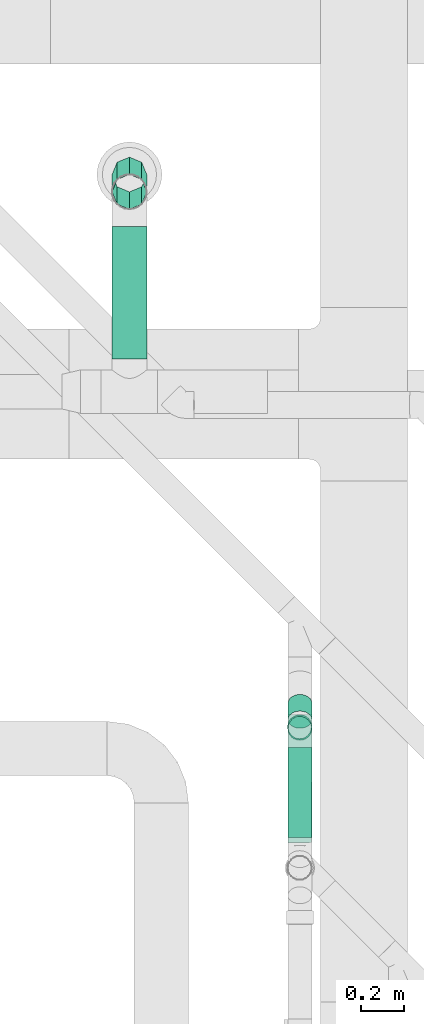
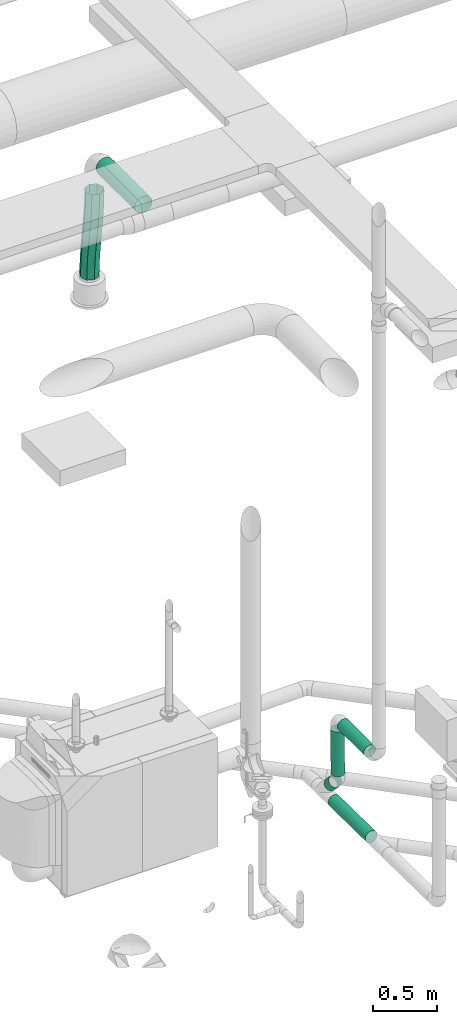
# One storey, part 318 of 374: 6 flow segments.
"""IFC2X3 building model written with IfcOpenShell, lengths in metres."""

import ifcopenshell
import ifcopenshell.guid

model = None  # the IFC model being written
_history = None  # IfcOwnerHistory: only IFC2X3 demands one
_inside = {}  # id of a spatial element -> (the spatial element, [elements in it])
_under = {}  # id of a project, library or spatial element -> (it, [spatial elements below it])
_declared = {}  # id of a project -> (the project, [libraries it declares])
_typed = {}  # id of a type object -> (the type object, [elements of that type])
_made_of = {}  # id of a material, layer set ... -> (it, [elements and type objects made of it])


def new_model(schema):
    """Start an empty IFC model of exactly this schema.

    Asked for "IFC4X3", IfcOpenShell would pick the latest addendum, in which some entities
    have other attributes; the version numbers below select the first issue.
    IFC2X3 requires an IfcOwnerHistory on every rooted entity: one is made here for all.
    """
    global model, _history
    if schema == "IFC4X3":
        model = ifcopenshell.file(schema_version=(4, 3, 0, 0))
    else:
        model = ifcopenshell.file(schema=schema)
    _inside.clear()
    _under.clear()
    _declared.clear()
    _typed.clear()
    _made_of.clear()
    _history = None
    if model.schema == "IFC2X3":
        org = make("IfcOrganization", Name="unknown")
        user = make(
            "IfcPersonAndOrganization",
            ThePerson=make("IfcPerson", FamilyName="unknown"),
            TheOrganization=org,
        )
        app = make(
            "IfcApplication",
            ApplicationDeveloper=org,
            Version="unknown",
            ApplicationFullName="unknown",
            ApplicationIdentifier="unknown",
        )
        _history = make(
            "IfcOwnerHistory",
            OwningUser=user,
            OwningApplication=app,
            ChangeAction="ADDED",
            CreationDate=0,
        )
    return model


def make(cls, **values):
    """One entity of the class cls with the attributes given. An attribute that is None is left unset."""
    return model.create_entity(
        cls, **{name: value for name, value in values.items() if value is not None}
    )


def rooted(cls, **values):
    """An entity with a GlobalId (a new one), such as an element, a storey or a relation."""
    return make(cls, GlobalId=ifcopenshell.guid.new(), OwnerHistory=_history, **values)


def si_unit(unit_type, name, prefix=None):
    """IfcSIUnit, for example si_unit("LENGTHUNIT", "METRE", prefix="MILLI")."""
    return make("IfcSIUnit", UnitType=unit_type, Prefix=prefix, Name=name)


def assignment(units):
    """IfcUnitAssignment: the units of a project."""
    return None if units is None else make("IfcUnitAssignment", Units=units)


def point(xyz):
    """IfcCartesianPoint."""
    return None if xyz is None else make("IfcCartesianPoint", Coordinates=xyz)


def direction(xyz):
    """IfcDirection."""
    return None if xyz is None else make("IfcDirection", DirectionRatios=xyz)


def frame(location, z_axis=None, x_axis=None):
    """IfcAxis2Placement3D, a coordinate frame: its origin and axes. An axis left out is left unset."""
    return make(
        "IfcAxis2Placement3D",
        Location=point(location),
        Axis=direction(z_axis),
        RefDirection=direction(x_axis),
    )


def origin():
    """The frame at (0, 0, 0) with its axes left unset."""
    return frame((0.0, 0.0, 0.0))


def place(relative_to, where):
    """IfcLocalPlacement: puts the frame where relative to a parent placement (None: the world)."""
    return make(
        "IfcLocalPlacement", PlacementRelTo=relative_to, RelativePlacement=where
    )


def context(
    kind, dimensions, precision=None, world=None, true_north=None, identifier=None
):
    """IfcGeometricRepresentationContext, for example the 3D "Model" context."""
    return make(
        "IfcGeometricRepresentationContext",
        ContextIdentifier=identifier,
        ContextType=kind,
        CoordinateSpaceDimension=dimensions,
        Precision=precision,
        WorldCoordinateSystem=world,
        TrueNorth=true_north,
    )


def subcontext(parent, identifier, kind, view, scale=None):
    """IfcGeometricRepresentationSubContext, for example "Body" below "Model"."""
    return make(
        "IfcGeometricRepresentationSubContext",
        ContextIdentifier=identifier,
        ContextType=kind,
        ParentContext=parent,
        TargetScale=scale,
        TargetView=view,
    )


def project(units=None, contexts=None):
    """IfcProject with its units and contexts."""
    return rooted(
        "IfcProject",
        Name="project",
        RepresentationContexts=contexts,
        UnitsInContext=assignment(units),
    )


def spatial(cls, under=None, at=None, **own):
    """A site, building, storey or space (cls), placed at a placement, below another one or the project."""
    s = rooted(cls, ObjectPlacement=at, **own)
    if under is not None:
        _under.setdefault(under.id(), (under, []))[1].append(s)
    return s


def faces_of(points, faces, orient=None, outer=None):
    """IfcFace entities. A face is a list of loops; a loop is a list of indices into points, from 0.

    orient and outer hold one flag for each loop. By default every Orientation is true, the
    first loop of a face is its IfcFaceOuterBound and the others are IfcFaceBound.
    """
    made = []
    for i, loops in enumerate(faces):
        bounds = []
        for j, loop in enumerate(loops):
            is_outer = j == 0 if outer is None else outer[i][j]
            bounds.append(
                make(
                    "IfcFaceOuterBound" if is_outer else "IfcFaceBound",
                    Bound=make("IfcPolyLoop", Polygon=[points[k] for k in loop]),
                    Orientation=True if orient is None else orient[i][j],
                )
            )
        made.append(make("IfcFace", Bounds=bounds))
    return made


def open_shell(faces, orient=None, outer=None):
    """The faces of one IfcOpenShell. surface_model builds it on its shared points."""
    return ("IfcOpenShell", faces, orient, outer)


def surface_model(cls, points, shells):
    """IfcFaceBasedSurfaceModel or IfcShellBasedSurfaceModel (cls): surfaces that need not close."""
    shared = [point(p) for p in points]
    made = [make(c, CfsFaces=faces_of(shared, fs, o, b)) for c, fs, o, b in shells]
    if cls == "IfcFaceBasedSurfaceModel":
        return make(cls, FbsmFaces=made)
    return make(cls, SbsmBoundary=made)


def shape(context_of_items, identifier, shape_type, items):
    """IfcShapeRepresentation: the items that make up one representation, for example the "Body"."""
    return make(
        "IfcShapeRepresentation",
        ContextOfItems=context_of_items,
        RepresentationIdentifier=identifier,
        RepresentationType=shape_type,
        Items=items,
    )


def source(mapping_origin, context_of_items, identifier, shape_type, items):
    """IfcRepresentationMap: a shape defined once, which mapped items show again and again."""
    return make(
        "IfcRepresentationMap",
        MappingOrigin=mapping_origin,
        MappedRepresentation=shape(context_of_items, identifier, shape_type, items),
    )


def transform(
    local_origin,
    x_axis=None,
    y_axis=None,
    z_axis=None,
    scale=None,
    scale2=None,
    scale3=None,
    uniform=True,
):
    """IfcCartesianTransformationOperator3D, or its non-uniform kind. x_axis, y_axis, z_axis: its Axis1, 2, 3."""
    if uniform:
        return make(
            "IfcCartesianTransformationOperator3D",
            Axis1=direction(x_axis),
            Axis2=direction(y_axis),
            LocalOrigin=point(local_origin),
            Scale=scale,
            Axis3=direction(z_axis),
        )
    return make(
        "IfcCartesianTransformationOperator3DnonUniform",
        Axis1=direction(x_axis),
        Axis2=direction(y_axis),
        LocalOrigin=point(local_origin),
        Scale=scale,
        Axis3=direction(z_axis),
        Scale2=scale2,
        Scale3=scale3,
    )


def mapped(mapping_source, mapping_target):
    """IfcMappedItem: shows the shape of a source again, moved by a transform."""
    return make(
        "IfcMappedItem", MappingSource=mapping_source, MappingTarget=mapping_target
    )


def made_of(thing, what):
    """Note that an element or type object is made of a material, layer set ...; save() writes the relation."""
    if what is not None:
        _made_of.setdefault(what.id(), (what, []))[1].append(thing)
    return thing


def element(
    cls,
    number,
    at=None,
    inside=None,
    cuts=None,
    type_object=None,
    material=None,
    context=None,
    identifier="Body",
    shape_type=None,
    held_by="IfcProductDefinitionShape",
    body=None,
    shapes=None,
    **own,
):
    """One element of the class cls, such as IfcWall. Its Tag is "e" and its number.

    at: its placement. inside: the storey or other place that contains it. cuts: it is an
    opening in that element (IfcRelVoidsElement). A single representation is given by context,
    identifier, shape_type and body (its items); several are given by shapes. held_by: the class
    of the entity that holds the representations. save() writes the other relations.
    """
    e = rooted(cls, Tag="e%d" % number, ObjectPlacement=at, **own)
    if body is not None:
        shapes = [shape(context, identifier, shape_type, body)]
    if shapes is not None:
        e.Representation = make(held_by, Representations=shapes)
    if inside is not None:
        _inside.setdefault(inside.id(), (inside, []))[1].append(e)
    if cuts is not None:
        rooted(
            "IfcRelVoidsElement", RelatingBuildingElement=cuts, RelatedOpeningElement=e
        )
    if type_object is not None:
        _typed.setdefault(type_object.id(), (type_object, []))[1].append(e)
    return made_of(e, material)


def aggregate(whole, parts):
    """IfcRelAggregates: a whole, such as a stair, and the parts it consists of."""
    return rooted("IfcRelAggregates", RelatingObject=whole, RelatedObjects=parts)


def save(model, path):
    """Write the relations noted so far, then the file.

    IfcRelAggregates (storeys below a building ...), IfcRelContainedInSpatialStructure (elements
    in a storey), IfcRelDefinesByType, IfcRelAssociatesMaterial and IfcRelDeclares: one each for
    every whole, place, type object, material and project.
    """
    for whole, parts in _under.values():
        aggregate(whole, parts)
    for where, things in _inside.values():
        rooted(
            "IfcRelContainedInSpatialStructure",
            RelatedElements=things,
            RelatingStructure=where,
        )
    for kind, things in _typed.values():
        rooted("IfcRelDefinesByType", RelatedObjects=things, RelatingType=kind)
    for what, things in _made_of.values():
        rooted("IfcRelAssociatesMaterial", RelatedObjects=things, RelatingMaterial=what)
    for by, libraries in _declared.values():
        rooted("IfcRelDeclares", RelatingContext=by, RelatedDefinitions=libraries)
    model.write(path)


model = new_model("IFC2X3")

# Units and contexts
model_context = context("Model", 3, precision=1e-05, world=origin(), true_north=direction((-0.4480736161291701, 0.8939966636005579)))
body_context = subcontext(model_context, "Body", "Model", "MODEL_VIEW")
ifc_project = project(units=[si_unit("LENGTHUNIT", "METRE"), si_unit("AREAUNIT", "SQUARE_METRE"), si_unit("VOLUMEUNIT", "CUBIC_METRE"), si_unit("PLANEANGLEUNIT", "RADIAN"), si_unit("THERMODYNAMICTEMPERATUREUNIT", "KELVIN"), si_unit("MASSUNIT", "GRAM", prefix="KILO"), si_unit("TIMEUNIT", "SECOND")], contexts=[model_context])

# Site, building, storey
site_placement = place(None, origin())
site = spatial("IfcSite", under=ifc_project, at=site_placement, Name="Site 1", CompositionType="ELEMENT")
building_placement = place(site_placement, origin())
building = spatial("IfcBuilding", under=site, at=building_placement, Name="Undefined", CompositionType="ELEMENT")
storey_placement = place(building_placement, origin())
storey = spatial("IfcBuildingStorey", under=building, at=storey_placement, Name="Rez de chauss\x8ee", CompositionType="ELEMENT", Elevation=0.0)

# Flow segments
shared_shape_1 = source(origin(), body_context, "Body", "SurfaceModel", [
    surface_model("IfcFaceBasedSurfaceModel", [(8.486868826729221e-05, 0.014357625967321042, -7.105427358e-15), (0.0, 0.0, 0.0), (0.5892833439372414, 1.4210854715e-14, -3.552713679e-15), (0.5893682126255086, 0.014357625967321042, 0.0), (-7.90850274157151e-05, -0.013868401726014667, -0.003716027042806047), (0.5892042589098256, -0.013868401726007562, -0.0037160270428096), (-0.00014699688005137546, -0.026302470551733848, -0.010894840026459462), (0.5891363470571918, -0.026302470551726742, -0.010894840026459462), (-0.0001991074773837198, -0.03645484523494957, -0.021047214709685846), (0.5890842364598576, -0.03645484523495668, -0.021047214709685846), (-0.00023186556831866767, -0.04363365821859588, -0.03348128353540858), (0.5890514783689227, -0.043633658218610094, -0.033481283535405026), (-0.00024303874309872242, -0.047349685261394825, -0.04734968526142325), (0.5890403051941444, -0.04734968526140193, -0.0473496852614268), (-0.00023186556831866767, -0.047349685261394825, -0.06170731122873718), (0.5890514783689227, -0.047349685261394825, -0.06170731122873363), (-0.0001991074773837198, -0.04363365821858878, -0.07557571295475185), (0.5890842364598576, -0.04363365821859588, -0.0755757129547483), (-0.0001469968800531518, -0.03645484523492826, -0.08800978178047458), (0.58913634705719, -0.03645484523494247, -0.08800978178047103), (-7.908502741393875e-05, -0.026302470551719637, -0.09816215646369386), (0.5892042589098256, -0.026302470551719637, -0.09816215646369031), (0.0, -0.013868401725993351, -0.10534096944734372), (0.5892833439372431, -0.013868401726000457, -0.10534096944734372), (8.486868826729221e-05, 2.842170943e-14, -0.10905699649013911), (0.5893682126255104, 2.1316282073e-14, -0.10905699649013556), (0.00016973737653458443, 0.014357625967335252, -0.10905699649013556), (0.5894530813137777, 0.014357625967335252, -0.10905699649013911), (0.00024882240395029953, 0.02822602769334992, -0.10534096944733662), (0.5895321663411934, 0.02822602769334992, -0.10534096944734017), (0.0003167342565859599, 0.040660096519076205, -0.0981621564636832), (0.5896000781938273, 0.040660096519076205, -0.09816215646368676), (0.00036884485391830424, 0.05081247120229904, -0.08800978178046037), (0.5896521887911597, 0.050812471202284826, -0.08800978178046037), (0.0004016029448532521, 0.05799128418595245, -0.07557571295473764), (0.5896849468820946, 0.05799128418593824, -0.07557571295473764), (0.00041277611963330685, 0.06170731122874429, -0.061707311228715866), (0.5896961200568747, 0.06170731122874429, -0.06170731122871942), (0.0004016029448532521, 0.06170731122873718, -0.047349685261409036), (0.5896849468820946, 0.06170731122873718, -0.047349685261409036), (0.00036884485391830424, 0.057991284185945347, -0.033481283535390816), (0.5896521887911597, 0.057991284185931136, -0.033481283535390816), (0.0003167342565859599, 0.050812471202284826, -0.021047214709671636), (0.5896000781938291, 0.05081247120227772, -0.021047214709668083), (0.0002488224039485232, 0.040660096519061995, -0.010894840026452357), (0.5895321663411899, 0.040660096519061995, -0.010894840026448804), (0.00016973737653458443, 0.02822602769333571, -0.0037160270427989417), (0.5894530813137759, 0.028226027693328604, -0.0037160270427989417)], [open_shell([[[0, 1, 2, 3]], [[1, 4, 5, 2]], [[4, 6, 7, 5]], [[6, 8, 9, 7]], [[8, 10, 11, 9]], [[10, 12, 13, 11]], [[12, 14, 15, 13]], [[14, 16, 17, 15]], [[16, 18, 19, 17]], [[18, 20, 21, 19]], [[20, 22, 23, 21]], [[22, 24, 25, 23]], [[24, 26, 27, 25]], [[26, 28, 29, 27]], [[28, 30, 31, 29]], [[30, 32, 33, 31]], [[32, 34, 35, 33]], [[34, 36, 37, 35]], [[36, 38, 39, 37]], [[38, 40, 41, 39]], [[40, 42, 43, 41]], [[42, 44, 45, 43]], [[44, 46, 47, 45]], [[46, 0, 3, 47]]])]),
])
flow_segment_1_placement = place(storey_placement, origin())
element("IfcFlowSegment", 1, at=flow_segment_1_placement, inside=storey, Name="PE-HD tuyau", ObjectType="PE-HD tuyau", context=body_context, shape_type="MappedRepresentation", body=[
    mapped(shared_shape_1, transform((57.038173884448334, 13.876891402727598, -1.2389539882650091), x_axis=(0.0027057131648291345, 0.9998643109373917, -0.016249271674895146), y_axis=(0.8451030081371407, -0.010973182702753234, -0.5344908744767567), z_axis=(-0.5345966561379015, -0.012286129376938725, -0.8450180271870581))),
])
shared_shape_2 = source(origin(), body_context, "Body", "SurfaceModel", [
    surface_model("IfcFaceBasedSurfaceModel", [(0.0, 0.014357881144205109, -3.552713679e-15), (0.0, 0.0, 0.0), (0.4260000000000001, 8.8817842e-16, 0.0), (0.4260000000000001, 0.014357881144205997, 0.0), (0.0, -0.01386864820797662, -0.0037160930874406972), (0.42600000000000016, -0.013868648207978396, -0.003716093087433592), (0.0, -0.026302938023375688, -0.010895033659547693), (0.42600000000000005, -0.02630293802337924, -0.010895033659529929), (0.0, -0.03645549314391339, -0.021047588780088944), (0.4260000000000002, -0.036455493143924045, -0.02104758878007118), (0.0, -0.04363443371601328, -0.033481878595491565), (0.42600000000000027, -0.04363443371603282, -0.03348187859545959), (0.0, -0.04735052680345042, -0.04735052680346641), (0.42600000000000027, -0.04735052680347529, -0.04735052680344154), (0.0, -0.04735052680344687, -0.06170840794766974), (0.4260000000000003, -0.04735052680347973, -0.061708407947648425), (0.0, -0.04363443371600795, -0.07557705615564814), (0.4260000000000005, -0.04363443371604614, -0.07557705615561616), (0.0, -0.03645549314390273, -0.08801134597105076), (0.42600000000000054, -0.036455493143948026, -0.08801134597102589), (0.0, -0.026302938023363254, -0.0981639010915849), (0.42600000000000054, -0.026302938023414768, -0.09816390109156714), (0.0, -0.013868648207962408, -0.1053428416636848), (0.4260000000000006, -0.013868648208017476, -0.10534284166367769), (0.0, 1.5987211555e-14, -0.10905893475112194), (0.42600000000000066, -4.2632564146e-14, -0.10905893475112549), (0.0, 0.014357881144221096, -0.10905893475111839), (0.42600000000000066, 0.014357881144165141, -0.10905893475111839), (0.0, 0.028226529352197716, -0.10534284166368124), (0.42600000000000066, 0.02822652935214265, -0.105342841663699), (0.0, 0.040660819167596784, -0.0981639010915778), (0.42600000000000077, 0.04066081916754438, -0.09816390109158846), (0.0, 0.05081337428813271, -0.08801134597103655), (0.4260000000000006, 0.05081337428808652, -0.08801134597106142), (0.0, 0.05799231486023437, -0.07557705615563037), (0.4260000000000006, 0.05799231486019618, -0.0755770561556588), (0.0, 0.06170840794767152, -0.06170840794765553), (0.4260000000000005, 0.06170840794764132, -0.06170840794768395), (0.0, 0.061708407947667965, -0.0473505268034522), (0.4260000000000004, 0.06170840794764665, -0.04735052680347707), (0.0, 0.05799231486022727, -0.033481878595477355), (0.42600000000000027, 0.05799231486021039, -0.033481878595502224), (0.0, 0.050813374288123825, -0.021047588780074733), (0.42600000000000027, 0.05081337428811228, -0.021047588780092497), (0.0, 0.04066081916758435, -0.010895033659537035), (0.42600000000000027, 0.04066081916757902, -0.01089503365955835), (0.0, 0.028226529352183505, -0.0037160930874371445), (0.42600000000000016, 0.028226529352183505, -0.0037160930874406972)], [open_shell([[[0, 1, 2, 3]], [[1, 4, 5, 2]], [[4, 6, 7, 5]], [[6, 8, 9, 7]], [[8, 10, 11, 9]], [[10, 12, 13, 11]], [[12, 14, 15, 13]], [[14, 16, 17, 15]], [[16, 18, 19, 17]], [[18, 20, 21, 19]], [[20, 22, 23, 21]], [[22, 24, 25, 23]], [[24, 26, 27, 25]], [[26, 28, 29, 27]], [[28, 30, 31, 29]], [[30, 32, 33, 31]], [[32, 34, 35, 33]], [[34, 36, 37, 35]], [[36, 38, 39, 37]], [[38, 40, 41, 39]], [[40, 42, 43, 41]], [[42, 44, 45, 43]], [[44, 46, 47, 45]], [[46, 0, 3, 47]]])]),
])
flow_segment_2_placement = place(storey_placement, origin())
element("IfcFlowSegment", 2, at=flow_segment_2_placement, inside=storey, Name="PE-HD tuyau", ObjectType="PE-HD tuyau", context=body_context, shape_type="MappedRepresentation", body=[
    mapped(shared_shape_2, transform((57.127479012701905, 14.418948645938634, -0.903082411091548), x_axis=(-0.002159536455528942, 0.014899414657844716, 0.999886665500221), y_axis=(0.1309049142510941, -0.9912806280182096, 0.015053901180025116), z_axis=(0.991392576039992, 0.13092258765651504, 0.0001903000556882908))),
])
shared_shape_3 = source(origin(), body_context, "Body", "SurfaceModel", [
    surface_model("IfcFaceBasedSurfaceModel", [(0.10999362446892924, -4.4408921e-16, 7.105427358e-15), (0.10999362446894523, 0.014357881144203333, 0.0), (0.0, 0.014357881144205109, -3.552713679e-15), (0.0, 0.0, 0.0), (0.10999362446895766, 0.028226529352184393, -0.0037160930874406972), (0.0, 0.028226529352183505, -0.0037160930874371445), (0.1099936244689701, 0.04066081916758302, -0.01089503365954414), (0.0, 0.04066081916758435, -0.010895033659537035), (0.10999362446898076, 0.050813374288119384, -0.021047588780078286), (0.0, 0.050813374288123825, -0.021047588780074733), (0.10999362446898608, 0.057992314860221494, -0.03348187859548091), (0.0, 0.05799231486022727, -0.033481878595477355), (0.10999362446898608, 0.06170840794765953, -0.047350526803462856), (0.0, 0.061708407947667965, -0.0473505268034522), (0.10999362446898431, 0.06170840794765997, -0.06170840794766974), (0.0, 0.06170840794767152, -0.06170840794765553), (0.1099936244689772, 0.05799231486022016, -0.07557705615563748), (0.0, 0.05799231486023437, -0.07557705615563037), (0.10999362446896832, 0.050813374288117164, -0.0880113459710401), (0.0, 0.05081337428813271, -0.08801134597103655), (0.10999362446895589, 0.04066081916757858, -0.09816390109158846), (0.0, 0.040660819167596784, -0.0981639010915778), (0.10999362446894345, 0.02822652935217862, -0.10534284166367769), (0.0, 0.028226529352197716, -0.10534284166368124), (0.10999362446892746, 0.014357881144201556, -0.10905893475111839), (0.0, 0.014357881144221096, -0.10905893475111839), (0.10999362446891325, -4.884981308e-15, -0.10905893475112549), (0.0, 1.5987211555e-14, -0.10905893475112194), (0.10999362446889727, -0.013868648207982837, -0.10534284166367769), (0.0, -0.013868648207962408, -0.1053428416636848), (0.10999362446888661, -0.026302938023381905, -0.09816390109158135), (0.0, -0.026302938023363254, -0.0981639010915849), (0.10999362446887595, -0.03645549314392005, -0.0880113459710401), (0.0, -0.03645549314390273, -0.08801134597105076), (0.1099936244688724, -0.04363443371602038, -0.07557705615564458), (0.0, -0.04363443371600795, -0.07557705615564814), (0.10999362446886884, -0.04735052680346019, -0.06170840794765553), (0.0, -0.04735052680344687, -0.06170840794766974), (0.1099936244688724, -0.04735052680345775, -0.047350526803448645), (0.0, -0.04735052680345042, -0.04735052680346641), (0.10999362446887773, -0.04363443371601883, -0.0334818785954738), (0.0, -0.04363443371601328, -0.033481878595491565), (0.10999362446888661, -0.03645549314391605, -0.02104758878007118), (0.0, -0.03645549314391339, -0.021047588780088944), (0.10999362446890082, -0.026302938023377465, -0.010895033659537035), (0.0, -0.026302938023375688, -0.010895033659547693), (0.10999362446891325, -0.013868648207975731, -0.0037160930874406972), (0.0, -0.01386864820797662, -0.0037160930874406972)], [open_shell([[[0, 1, 2, 3]], [[1, 4, 5, 2]], [[4, 6, 7, 5]], [[6, 8, 9, 7]], [[8, 10, 11, 9]], [[10, 12, 13, 11]], [[12, 14, 15, 13]], [[14, 16, 17, 15]], [[16, 18, 19, 17]], [[18, 20, 21, 19]], [[20, 22, 23, 21]], [[22, 24, 25, 23]], [[24, 26, 27, 25]], [[26, 28, 29, 27]], [[28, 30, 31, 29]], [[30, 32, 33, 31]], [[32, 34, 35, 33]], [[34, 36, 37, 35]], [[36, 38, 39, 37]], [[38, 40, 41, 39]], [[40, 42, 43, 41]], [[42, 44, 45, 43]], [[44, 46, 47, 45]], [[46, 0, 3, 47]]])]),
])
flow_segment_3_placement = place(storey_placement, origin())
element("IfcFlowSegment", 3, at=flow_segment_3_placement, inside=storey, Name="PE-HD tuyau", ObjectType="PE-HD tuyau", context=body_context, shape_type="MappedRepresentation", body=[
    mapped(shared_shape_3, transform((57.1295562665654, 14.444161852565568, -1.0022738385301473), x_axis=(0.0012568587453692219, 0.6964258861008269, -0.7176276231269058), y_axis=(-0.1323077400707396, 0.7114350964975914, 0.6901845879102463), z_axis=(0.9912078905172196, 0.09408022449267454, 0.09303670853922))),
])
shared_shape_4 = source(origin(), body_context, "Body", "SurfaceModel", [
    surface_model("IfcFaceBasedSurfaceModel", [(0.0, 0.020884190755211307, 0.0), (0.0, 0.0, 0.0), (0.6100009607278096, 0.0, 1.776356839e-15), (0.6100009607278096, 0.020884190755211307, 0.0), (0.0, -0.020172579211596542, -0.005405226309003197), (0.6100009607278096, -0.020172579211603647, -0.005405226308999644), (0.0, -0.03825881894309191, -0.015847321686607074), (0.6100009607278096, -0.03825881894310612, -0.01584732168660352), (0.0, -0.05302617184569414, -0.0306146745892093), (0.6100009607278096, -0.05302617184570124, -0.030614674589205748), (0.0, -0.06346826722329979, -0.04870091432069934), (0.6100009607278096, -0.0634682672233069, -0.04870091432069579), (0.0, -0.06887349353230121, -0.06887349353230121), (0.6100009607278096, -0.06887349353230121, -0.06887349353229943), (0.0, -0.06887349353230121, -0.08975768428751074), (0.6100009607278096, -0.06887349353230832, -0.08975768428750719), (0.0, -0.06346826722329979, -0.10993026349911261), (0.6100009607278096, -0.0634682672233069, -0.10993026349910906), (0.0, -0.05302617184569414, -0.12801650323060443), (0.6100009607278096, -0.05302617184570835, -0.12801650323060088), (0.0, -0.038258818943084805, -0.14278385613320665), (0.6100009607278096, -0.03825881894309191, -0.14278385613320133), (0.0, -0.020172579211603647, -0.15322595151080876), (0.6100009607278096, -0.020172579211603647, -0.1532259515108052), (0.0, 7.105427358e-15, -0.15863117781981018), (0.6100009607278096, 0.0, -0.1586311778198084), (0.0, 0.020884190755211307, -0.15863117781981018), (0.6100009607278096, 0.0208841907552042, -0.1586311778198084), (0.0, 0.04105676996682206, -0.15322595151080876), (0.6100009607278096, 0.04105676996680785, -0.1532259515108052), (0.0, 0.05914300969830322, -0.1427838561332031), (0.6100009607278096, 0.05914300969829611, -0.1427838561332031), (0.0, 0.07391036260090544, -0.12801650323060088), (0.6100009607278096, 0.07391036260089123, -0.12801650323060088), (0.0, 0.0843524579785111, -0.10993026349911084), (0.6100009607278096, 0.08435245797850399, -0.10993026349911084), (0.0, 0.08975768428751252, -0.08975768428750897), (0.6100009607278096, 0.08975768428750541, -0.08975768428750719), (0.0, 0.08975768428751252, -0.06887349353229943), (0.6100009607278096, 0.08975768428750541, -0.06887349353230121), (0.0, 0.0843524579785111, -0.048700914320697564), (0.6100009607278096, 0.08435245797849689, -0.04870091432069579), (0.0, 0.07391036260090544, -0.030614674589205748), (0.6100009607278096, 0.07391036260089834, -0.030614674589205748), (0.0, 0.05914300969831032, -0.015847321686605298), (0.6100009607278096, 0.05914300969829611, -0.015847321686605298), (0.0, 0.04105676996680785, -0.005405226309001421), (0.6100009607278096, 0.04105676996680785, -0.005405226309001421)], [open_shell([[[0, 1, 2, 3]], [[1, 4, 5, 2]], [[4, 6, 7, 5]], [[6, 8, 9, 7]], [[8, 10, 11, 9]], [[10, 12, 13, 11]], [[12, 14, 15, 13]], [[14, 16, 17, 15]], [[16, 18, 19, 17]], [[18, 20, 21, 19]], [[20, 22, 23, 21]], [[22, 24, 25, 23]], [[24, 26, 27, 25]], [[26, 28, 29, 27]], [[28, 30, 31, 29]], [[30, 32, 33, 31]], [[32, 34, 35, 33]], [[34, 36, 37, 35]], [[36, 38, 39, 37]], [[38, 40, 41, 39]], [[40, 42, 43, 41]], [[42, 44, 45, 43]], [[44, 46, 47, 45]], [[46, 0, 3, 47]]])]),
])
flow_segment_4_placement = place(storey_placement, origin())
element("IfcFlowSegment", 4, at=flow_segment_4_placement, inside=storey, Name="Tube", ObjectType="Tube", context=body_context, shape_type="MappedRepresentation", body=[
    mapped(shared_shape_4, transform((56.3099456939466, 16.104998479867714, 3.877274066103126), x_axis=(0.0, 1.0, 0.0), y_axis=(-0.9914448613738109, 0.0, 0.1305261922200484), z_axis=(0.1305261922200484, 0.0, 0.9914448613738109))),
])
shared_shape_5 = source(origin(), body_context, "Body", "SurfaceModel", [
    surface_model("IfcFaceBasedSurfaceModel", [(0.09425708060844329, -3.552713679e-15, 0.0), (0.05356602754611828, 0.04575228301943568, 0.0), (0.0, 0.0, 0.0), (0.038940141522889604, -0.04725143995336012, -1.1507286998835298e-06), (-0.05541274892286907, -0.044041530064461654, 0.001035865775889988), (-0.0179936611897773, -0.0925064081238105, 0.0010617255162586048), (-0.11243305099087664, -0.08679099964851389, 0.002911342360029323), (-0.07622095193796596, -0.13616420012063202, 0.0029758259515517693), (-0.17075715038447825, -0.12862218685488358, 0.005426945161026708), (-0.13541835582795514, -0.1786241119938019, 0.005528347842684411), (-0.2300733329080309, -0.16991458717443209, 0.008379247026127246), (-0.19526249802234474, -0.22028543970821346, 0.008506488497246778), (-0.2900642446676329, -0.21105506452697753, 0.011560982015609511), (-0.25543000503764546, -0.2615474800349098, 0.011697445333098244), (-0.3504083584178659, -0.2524386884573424, 0.014761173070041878), (-0.3155975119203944, -0.30280953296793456, 0.0148884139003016), (-0.41078046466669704, -0.2944689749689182, 0.017765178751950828), (-0.3754416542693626, -0.3444708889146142, 0.017866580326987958), (-0.47085117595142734, -0.33755764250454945, 0.020354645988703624), (-0.4346390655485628, -0.386930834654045, 0.02041912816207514), (-0.5302854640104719, -0.38212377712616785, 0.022307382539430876), (-0.49286637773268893, -0.4305886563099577, 0.022333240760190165), (-0.5887403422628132, -0.42859218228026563, 0.023397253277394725), (-0.5498002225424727, -0.47584364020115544, 0.023396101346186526), (-0.6458082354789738, -0.4773427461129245, 0.023394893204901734), (-0.6051172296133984, -0.5230950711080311, 0.023394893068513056), (0.0250615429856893, 0.07834277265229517, -0.043294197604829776), (-0.02777923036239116, 0.03321146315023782, -0.043293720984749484), (-0.08256193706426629, -0.01032744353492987, -0.042269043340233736), (-0.13908228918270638, -0.05270067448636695, -0.04040956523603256), (-0.19704465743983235, -0.09427143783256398, -0.03790925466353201), (-0.25614215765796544, -0.13541102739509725, -0.03496765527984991), (-0.3160599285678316, -0.17650115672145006, -0.03178973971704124), (-0.37647720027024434, -0.21793514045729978, -0.02858572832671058), (-0.43706799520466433, -0.260118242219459, -0.025571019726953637), (-0.49750043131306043, -0.3034673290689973, -0.022966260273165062), (-0.5574346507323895, -0.348409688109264, -0.02099752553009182), (-0.6165195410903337, -0.3953806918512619, -0.01989646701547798), (-0.6743126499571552, -0.4447521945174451, -0.019899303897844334), (0.025441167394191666, 0.078680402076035, -0.10452143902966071), (-0.0281248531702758, 0.032928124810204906, -0.10452143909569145), (-0.08353759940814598, -0.011113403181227, -0.10348557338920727), (-0.14055790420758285, -0.05386287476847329, -0.10161009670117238), (-0.19888201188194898, -0.09569406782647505, -0.09909449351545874), (-0.2581982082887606, -0.1369864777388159, -0.09614219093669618), (-0.3181891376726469, -0.17812696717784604, -0.09296045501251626), (-0.37853326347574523, -0.2195105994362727, -0.08976026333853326), (-0.4389053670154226, -0.261540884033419, -0.08675625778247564), (-0.4989760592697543, -0.30462953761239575, -0.08416679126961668), (-0.5584103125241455, -0.34919564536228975, -0.08221405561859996), (-0.6168651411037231, -0.3956640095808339, -0.08112418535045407), (-0.6739329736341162, -0.44441451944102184, -0.08112654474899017), (0.05448252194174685, 0.046567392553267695, -0.14781563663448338), (-0.0008344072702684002, -0.000684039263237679, -0.147816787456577), (-0.0577682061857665, -0.04593900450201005, -0.1467539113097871), (-0.11599550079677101, -0.089596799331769, -0.1448398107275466), (-0.17519291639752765, -0.13205671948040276, -0.14228728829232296), (-0.23503707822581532, -0.17371806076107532, -0.13930914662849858), (-0.2952046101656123, -0.2149801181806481, -0.13611818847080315), (-0.3553721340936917, -0.2562421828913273, -0.1329272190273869), (-0.41521627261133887, -0.29790353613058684, -0.12994905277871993), (-0.4744136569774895, -0.3403634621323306, -0.12739650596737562), (-0.5326409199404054, -0.38402124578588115, -0.125482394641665), (-0.5895746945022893, -0.4292761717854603, -0.12441953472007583), (-0.64489161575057, -0.47652752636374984, -0.12442074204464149), (0.09517357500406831, 0.0008151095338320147, -0.1478156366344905), (0.038105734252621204, -0.04793547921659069, -0.14781793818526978), (-0.020349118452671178, -0.09440388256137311, -0.14672805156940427), (-0.07978340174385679, -0.1389699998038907, -0.14477532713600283), (-0.139854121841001, -0.1820586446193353, -0.14218588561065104), (-0.20022624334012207, -0.2240889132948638, -0.13918190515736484), (-0.26057037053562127, -0.2654725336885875, -0.1359817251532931), (-0.3205612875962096, -0.3066130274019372, -0.13279997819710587), (-0.37987746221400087, -0.3479054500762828, -0.1298476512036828), (-0.4382015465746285, -0.38973665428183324, -0.1273320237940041), (-0.4952218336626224, -0.432486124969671, -0.12545653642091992), (-0.5506345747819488, -0.47652762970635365, -0.12442068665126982), (-0.604200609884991, -0.5222798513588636, -0.12442074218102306), (0.1236780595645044, -0.03177538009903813, -0.1045214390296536), (0.06588496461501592, -0.08114694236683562, -0.10452421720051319), (0.00680006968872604, -0.12811796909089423, -0.10342314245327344), (-0.05313416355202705, -0.17306032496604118, -0.10145441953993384), (-0.11356661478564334, -0.21640939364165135, -0.09884968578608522), (-0.1741574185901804, -0.25859247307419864, -0.09583500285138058), (-0.23457468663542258, -0.30002644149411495, -0.09263100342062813), (-0.2944924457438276, -0.34111657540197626, -0.08945307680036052), (-0.3535899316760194, -0.3822561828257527, -0.08651145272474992), (-0.4115522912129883, -0.4238269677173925, -0.0840111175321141), (-0.4680726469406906, -0.46620021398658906, -0.0821516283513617), (-0.5228553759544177, -0.509739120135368, -0.0811269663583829), (-0.5756961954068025, -0.5548704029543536, -0.08112654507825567), (0.12329843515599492, -0.0321130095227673, -0.043294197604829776), (0.06623058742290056, -0.0808636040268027, -0.04329649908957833), (0.007775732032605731, -0.12733200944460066, -0.04220661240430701), (-0.05165854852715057, -0.17189812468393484, -0.04025388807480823), (-0.11172926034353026, -0.21498676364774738, -0.03766444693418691), (-0.17210136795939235, -0.25701702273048, -0.03466046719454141), (-0.23244547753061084, -0.2984006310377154, -0.03146028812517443), (-0.2924363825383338, -0.3395411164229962, -0.028278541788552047), (-0.3517525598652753, -0.380833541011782, -0.02532621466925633), (-0.4100766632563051, -0.42266475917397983, -0.02281058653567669), (-0.4670969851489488, -0.46541425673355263, -0.02093509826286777), (-0.5225097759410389, -0.5094558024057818, -0.019899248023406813), (-0.5760758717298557, -0.5552080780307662, -0.01989930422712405)], [open_shell([[[0, 1, 2]], [[2, 3, 0]], [[3, 2, 4]], [[4, 5, 3]], [[5, 4, 6]], [[6, 7, 5]], [[7, 6, 8]], [[8, 9, 7]], [[9, 8, 10]], [[10, 11, 9]], [[11, 10, 12]], [[12, 13, 11]], [[13, 12, 14]], [[14, 15, 13]], [[15, 14, 16]], [[16, 17, 15]], [[17, 16, 18]], [[18, 19, 17]], [[19, 18, 20]], [[20, 21, 19]], [[21, 20, 22]], [[22, 23, 21]], [[23, 22, 24]], [[24, 25, 23]], [[1, 26, 27]], [[27, 2, 1]], [[2, 27, 28]], [[28, 4, 2]], [[4, 28, 29]], [[29, 6, 4]], [[6, 29, 30]], [[30, 8, 6]], [[8, 30, 31]], [[31, 10, 8]], [[10, 31, 32]], [[32, 12, 10]], [[12, 32, 33]], [[33, 14, 12]], [[14, 33, 34]], [[34, 16, 14]], [[16, 34, 35]], [[35, 18, 16]], [[18, 35, 36]], [[36, 20, 18]], [[20, 36, 37]], [[37, 22, 20]], [[22, 37, 38]], [[38, 24, 22]], [[26, 39, 40]], [[40, 27, 26]], [[27, 40, 41]], [[41, 28, 27]], [[28, 41, 42]], [[42, 29, 28]], [[29, 42, 43]], [[43, 30, 29]], [[30, 43, 44]], [[44, 31, 30]], [[31, 44, 45]], [[45, 32, 31]], [[32, 45, 46]], [[46, 33, 32]], [[33, 46, 47]], [[47, 34, 33]], [[34, 47, 48]], [[48, 35, 34]], [[35, 48, 49]], [[49, 36, 35]], [[36, 49, 50]], [[50, 37, 36]], [[37, 50, 51]], [[51, 38, 37]], [[39, 52, 53]], [[53, 40, 39]], [[40, 53, 54]], [[54, 41, 40]], [[41, 54, 55]], [[55, 42, 41]], [[42, 55, 56]], [[56, 43, 42]], [[43, 56, 57]], [[57, 44, 43]], [[44, 57, 58]], [[58, 45, 44]], [[45, 58, 59]], [[59, 46, 45]], [[46, 59, 60]], [[60, 47, 46]], [[47, 60, 61]], [[61, 48, 47]], [[48, 61, 62]], [[62, 49, 48]], [[49, 62, 63]], [[63, 50, 49]], [[50, 63, 64]], [[64, 51, 50]], [[52, 65, 66]], [[66, 53, 52]], [[53, 66, 67]], [[67, 54, 53]], [[54, 67, 68]], [[68, 55, 54]], [[55, 68, 69]], [[69, 56, 55]], [[56, 69, 70]], [[70, 57, 56]], [[57, 70, 71]], [[71, 58, 57]], [[58, 71, 72]], [[72, 59, 58]], [[59, 72, 73]], [[73, 60, 59]], [[60, 73, 74]], [[74, 61, 60]], [[61, 74, 75]], [[75, 62, 61]], [[62, 75, 76]], [[76, 63, 62]], [[63, 76, 77]], [[77, 64, 63]], [[65, 78, 79]], [[79, 66, 65]], [[66, 79, 80]], [[80, 67, 66]], [[67, 80, 81]], [[81, 68, 67]], [[68, 81, 82]], [[82, 69, 68]], [[69, 82, 83]], [[83, 70, 69]], [[70, 83, 84]], [[84, 71, 70]], [[71, 84, 85]], [[85, 72, 71]], [[72, 85, 86]], [[86, 73, 72]], [[73, 86, 87]], [[87, 74, 73]], [[74, 87, 88]], [[88, 75, 74]], [[75, 88, 89]], [[89, 76, 75]], [[76, 89, 90]], [[90, 77, 76]], [[78, 91, 92]], [[92, 79, 78]], [[79, 92, 93]], [[93, 80, 79]], [[80, 93, 94]], [[94, 81, 80]], [[81, 94, 95]], [[95, 82, 81]], [[82, 95, 96]], [[96, 83, 82]], [[83, 96, 97]], [[97, 84, 83]], [[84, 97, 98]], [[98, 85, 84]], [[85, 98, 99]], [[99, 86, 85]], [[86, 99, 100]], [[100, 87, 86]], [[87, 100, 101]], [[101, 88, 87]], [[88, 101, 102]], [[102, 89, 88]], [[89, 102, 103]], [[103, 90, 89]], [[91, 0, 3]], [[3, 92, 91]], [[92, 3, 5]], [[5, 93, 92]], [[93, 5, 7]], [[7, 94, 93]], [[94, 7, 9]], [[9, 95, 94]], [[95, 9, 11]], [[11, 96, 95]], [[96, 11, 13]], [[13, 97, 96]], [[97, 13, 15]], [[15, 98, 97]], [[98, 15, 17]], [[17, 99, 98]], [[99, 17, 19]], [[19, 100, 99]], [[100, 19, 21]], [[21, 101, 100]], [[101, 21, 23]], [[23, 102, 101]], [[102, 23, 25]], [[25, 103, 102]]])]),
])
flow_segment_5_placement = place(storey_placement, origin())
element("IfcFlowSegment", 5, at=flow_segment_5_placement, inside=storey, Name="Tube flexible", ObjectType="Tube flexible", context=body_context, shape_type="MappedRepresentation", body=[
    mapped(shared_shape_5, transform((56.23267163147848, 16.93309509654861, 3.4095708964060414), x_axis=(-0.2485909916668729, -0.6163532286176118, 0.7472022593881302), y_axis=(0.29104620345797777, 0.6882384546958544, 0.6645449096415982), z_axis=(-0.923847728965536, 0.38267025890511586, 0.008297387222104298))),
])
shared_shape_6 = source(origin(), body_context, "Body", "SurfaceModel", [
    surface_model("IfcFaceBasedSurfaceModel", [(0.0, 0.014357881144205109, -3.552713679e-15), (0.0, 0.0, 0.0), (0.41610673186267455, 0.0, -7.105427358e-15), (0.41610673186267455, 0.014357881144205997, -7.105427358e-15), (0.0, -0.01386864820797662, -0.0037160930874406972), (0.41610673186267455, -0.013868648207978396, -0.0037160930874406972), (0.0, -0.026302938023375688, -0.010895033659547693), (0.41610673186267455, -0.02630293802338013, -0.010895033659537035), (0.0, -0.03645549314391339, -0.021047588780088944), (0.41610673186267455, -0.03645549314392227, -0.02104758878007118), (0.0, -0.04363443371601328, -0.033481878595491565), (0.41610673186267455, -0.043634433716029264, -0.033481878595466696), (0.0, -0.04735052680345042, -0.04735052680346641), (0.41610673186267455, -0.047350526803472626, -0.04735052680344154), (0.0, -0.04735052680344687, -0.06170840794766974), (0.41610673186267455, -0.047350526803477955, -0.06170840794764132), (0.0, -0.04363443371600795, -0.07557705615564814), (0.41610673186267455, -0.04363443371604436, -0.07557705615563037), (0.0, -0.03645549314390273, -0.08801134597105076), (0.41610673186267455, -0.03645549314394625, -0.088011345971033), (0.0, -0.026302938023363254, -0.0981639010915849), (0.41610673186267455, -0.026302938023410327, -0.09816390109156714), (0.0, -0.013868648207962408, -0.1053428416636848), (0.41610673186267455, -0.013868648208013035, -0.10534284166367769), (0.0, 1.5987211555e-14, -0.10905893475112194), (0.41610673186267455, -3.8191672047e-14, -0.10905893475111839), (0.0, 0.014357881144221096, -0.10905893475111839), (0.41610673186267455, 0.014357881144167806, -0.10905893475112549), (0.0, 0.028226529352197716, -0.10534284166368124), (0.41610673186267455, 0.0282265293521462, -0.1053428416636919), (0.0, 0.040660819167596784, -0.0981639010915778), (0.41610673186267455, 0.040660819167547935, -0.09816390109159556), (0.0, 0.05081337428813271, -0.08801134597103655), (0.41610673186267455, 0.050813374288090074, -0.08801134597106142), (0.0, 0.05799231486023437, -0.07557705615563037), (0.41610673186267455, 0.05799231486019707, -0.0755770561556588), (0.0, 0.06170840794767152, -0.06170840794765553), (0.41610673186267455, 0.06170840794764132, -0.06170840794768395), (0.0, 0.061708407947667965, -0.0473505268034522), (0.41610673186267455, 0.06170840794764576, -0.04735052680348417), (0.0, 0.05799231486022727, -0.033481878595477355), (0.41610673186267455, 0.05799231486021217, -0.033481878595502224), (0.0, 0.050813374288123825, -0.021047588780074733), (0.41610673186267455, 0.050813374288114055, -0.021047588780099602), (0.0, 0.04066081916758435, -0.010895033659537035), (0.41610673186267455, 0.04066081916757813, -0.010895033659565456), (0.0, 0.028226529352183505, -0.0037160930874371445), (0.41610673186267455, 0.02822652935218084, -0.003716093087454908)], [open_shell([[[0, 1, 2, 3]], [[1, 4, 5, 2]], [[4, 6, 7, 5]], [[6, 8, 9, 7]], [[8, 10, 11, 9]], [[10, 12, 13, 11]], [[12, 14, 15, 13]], [[14, 16, 17, 15]], [[16, 18, 19, 17]], [[18, 20, 21, 19]], [[20, 22, 23, 21]], [[22, 24, 25, 23]], [[24, 26, 27, 25]], [[26, 28, 29, 27]], [[28, 30, 31, 29]], [[30, 32, 33, 31]], [[32, 34, 35, 33]], [[34, 36, 37, 35]], [[36, 38, 39, 37]], [[38, 40, 41, 39]], [[40, 42, 43, 41]], [[42, 44, 45, 43]], [[44, 46, 47, 45]], [[46, 0, 3, 47]]])]),
])
flow_segment_6_placement = place(storey_placement, origin())
element("IfcFlowSegment", 6, at=flow_segment_6_placement, inside=storey, Name="PE-HD tuyau", ObjectType="PE-HD tuyau", context=body_context, shape_type="MappedRepresentation", body=[
    mapped(shared_shape_6, transform((57.0208740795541, 13.900738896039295, -0.37220777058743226), x_axis=(0.0, 1.0, 0.0), y_axis=(-0.13052619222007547, 0.0, -0.9914448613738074), z_axis=(-0.9914448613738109, 0.0, 0.1305261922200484))),
])

save(model, "model.ifc")
